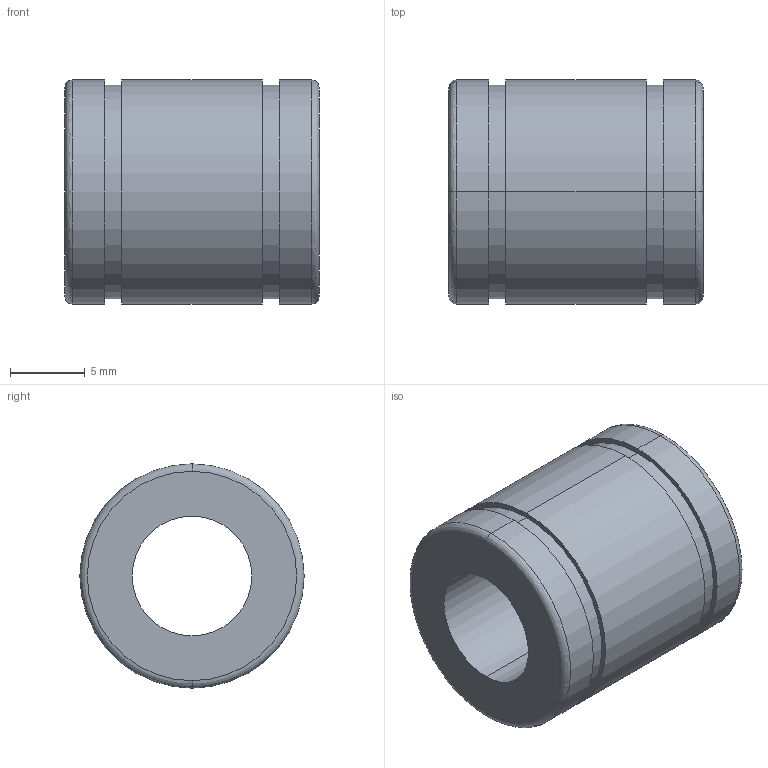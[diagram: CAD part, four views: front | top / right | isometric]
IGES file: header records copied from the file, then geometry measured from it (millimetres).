
Start section: 3D InterOp IGES (Version 21 0 1), Spatial Corp. Copyright (c) 1999-2007.
Global section: file name: N-8VS.igs; native system: Spatial Corp.; preprocessor: 3D InterOp GENERIC/IGES 3.0; author: Noname; organization: Noname; date: 20220311.154058; units: millimetre
Bounding box: 17 x 15 x 15 mm (x, y, z)
Surface area: 1520.2 mm2 (no closed solid volume)
Topology: 0 solids, 0 shells, 22 faces, 88 edges, 88 vertices
Faces by surface type: revolution 16, extrusion 6
